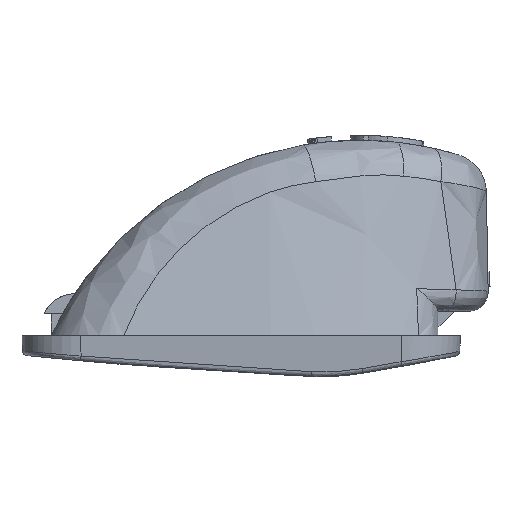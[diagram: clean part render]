
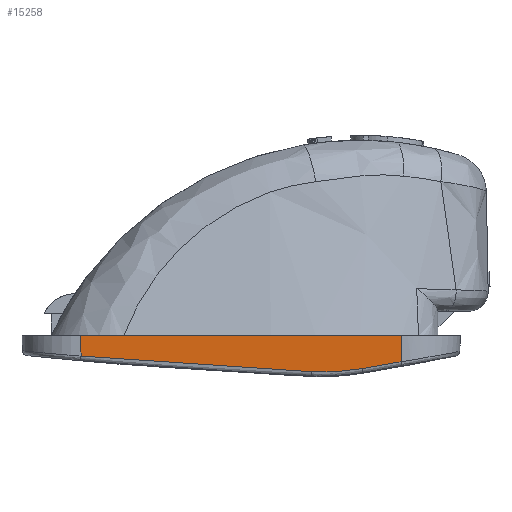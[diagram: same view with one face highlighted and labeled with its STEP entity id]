
A CAD part, left-side view. The second image highlights one B-rep face of the part: STEP entity #15258.
In plain terms, the highlighted planar face has unit normal (-0.999, 0, -0.035).
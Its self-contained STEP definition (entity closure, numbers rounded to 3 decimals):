
#20 = CARTESIAN_POINT ( 'NONE',  ( -51.889, -36.248, -3.165 ) ) ;
#80 = CARTESIAN_POINT ( 'NONE',  ( -51.898, -37.58, -2.931 ) ) ;
#403 = DIRECTION ( 'NONE',  ( -0.035, 0.035, 0.999 ) ) ;
#712 = FACE_OUTER_BOUND ( 'NONE', #14331, .T. ) ;
#1403 = CARTESIAN_POINT ( 'NONE',  ( -51.87, -29.758, -3.71 ) ) ;
#2119 = LINE ( 'NONE', #8752, #16914 ) ;
#2172 = AXIS2_PLACEMENT_3D ( 'NONE', #13459, #17833, #9355 ) ;
#2696 = CARTESIAN_POINT ( 'NONE',  ( -51.882, -34.914, -3.391 ) ) ;
#3017 = EDGE_CURVE ( 'NONE', #15774, #8891, #12576, .T. ) ;
#3087 = CARTESIAN_POINT ( 'NONE',  ( -51.87, -29.758, -3.71 ) ) ;
#3192 = CARTESIAN_POINT ( 'NONE',  ( -51.872, -33.207, -3.679 ) ) ;
#4271 = CARTESIAN_POINT ( 'NONE',  ( -51.883, -21.851, -3.364 ) ) ;
#5219 = ORIENTED_EDGE ( 'NONE', *, *, #11560, .T. ) ;
#5341 = LINE ( 'NONE', #9110, #12923 ) ;
#5730 = CARTESIAN_POINT ( 'NONE',  ( -51.901, -13.952, -2.829 ) ) ;
#6668 = CARTESIAN_POINT ( 'NONE',  ( -51.906, -38.91, -2.687 ) ) ;
#6674 = VERTEX_POINT ( 'NONE', #3087 ) ;
#7932 = CARTESIAN_POINT ( 'NONE',  ( -52., -39.004, 0. ) ) ;
#8023 = B_SPLINE_CURVE_WITH_KNOTS ( 'NONE', 3,
 ( #12826, #4271, #5730, #15665 ),
 .UNSPECIFIED., .F., .F.,
 ( 4, 4 ),
 ( 0., 1. ),
 .UNSPECIFIED. ) ;
#8332 = EDGE_CURVE ( 'NONE', #6674, #10750, #8720, .T. ) ;
#8720 = B_SPLINE_CURVE_WITH_KNOTS ( 'NONE', 3,
 ( #1403, #11799, #3192, #13211 ),
 .UNSPECIFIED., .F., .F.,
 ( 4, 4 ),
 ( 0., 1. ),
 .UNSPECIFIED. ) ;
#8752 = CARTESIAN_POINT ( 'NONE',  ( -51.906, -38.91, -2.687 ) ) ;
#8824 = VECTOR ( 'NONE', #13841, 1000. ) ;
#8891 = VERTEX_POINT ( 'NONE', #12498 ) ;
#9110 = CARTESIAN_POINT ( 'NONE',  ( -51.953, -6.044, -1.359 ) ) ;
#9355 = DIRECTION ( 'NONE',  ( -0.035, 0., 0.999 ) ) ;
#9642 = VERTEX_POINT ( 'NONE', #18511 ) ;
#10237 = CARTESIAN_POINT ( 'NONE',  ( -51.906, -38.91, -2.687 ) ) ;
#10675 = EDGE_CURVE ( 'NONE', #6674, #9642, #8023, .T. ) ;
#10750 = VERTEX_POINT ( 'NONE', #11785 ) ;
#11087 = EDGE_CURVE ( 'NONE', #10750, #13022, #12451, .T. ) ;
#11184 = EDGE_CURVE ( 'NONE', #9642, #8891, #5341, .T. ) ;
#11560 = EDGE_CURVE ( 'NONE', #13022, #15774, #2119, .T. ) ;
#11592 = ORIENTED_EDGE ( 'NONE', *, *, #3017, .T. ) ;
#11616 = DIRECTION ( 'NONE',  ( -0.035, -0.035, 0.999 ) ) ;
#11785 = CARTESIAN_POINT ( 'NONE',  ( -51.882, -34.914, -3.391 ) ) ;
#11799 = CARTESIAN_POINT ( 'NONE',  ( -51.868, -31.488, -3.786 ) ) ;
#12438 = CARTESIAN_POINT ( 'NONE',  ( -52., -45., 0. ) ) ;
#12451 = B_SPLINE_CURVE_WITH_KNOTS ( 'NONE', 3,
 ( #2696, #20, #80, #10237 ),
 .UNSPECIFIED., .F., .F.,
 ( 4, 4 ),
 ( 0., 1. ),
 .UNSPECIFIED. ) ;
#12498 = CARTESIAN_POINT ( 'NONE',  ( -52., -5.996, 0. ) ) ;
#12535 = ORIENTED_EDGE ( 'NONE', *, *, #10675, .F. ) ;
#12576 = LINE ( 'NONE', #12438, #8824 ) ;
#12826 = CARTESIAN_POINT ( 'NONE',  ( -51.87, -29.758, -3.71 ) ) ;
#12923 = VECTOR ( 'NONE', #403, 1000. ) ;
#13022 = VERTEX_POINT ( 'NONE', #6668 ) ;
#13211 = CARTESIAN_POINT ( 'NONE',  ( -51.882, -34.914, -3.391 ) ) ;
#13459 = CARTESIAN_POINT ( 'NONE',  ( -52., -45., 0. ) ) ;
#13733 = ORIENTED_EDGE ( 'NONE', *, *, #8332, .T. ) ;
#13841 = DIRECTION ( 'NONE',  ( 0., 1., 0. ) ) ;
#14331 = EDGE_LOOP ( 'NONE', ( #14579, #12535, #13733, #18003, #5219, #11592 ) ) ;
#14579 = ORIENTED_EDGE ( 'NONE', *, *, #11184, .F. ) ;
#15258 = ADVANCED_FACE ( 'NONE', ( #712 ), #16376, .T. ) ;
#15665 = CARTESIAN_POINT ( 'NONE',  ( -51.926, -6.07, -2.108 ) ) ;
#15774 = VERTEX_POINT ( 'NONE', #7932 ) ;
#16376 = PLANE ( 'NONE',  #2172 ) ;
#16914 = VECTOR ( 'NONE', #11616, 1000. ) ;
#17833 = DIRECTION ( 'NONE',  ( -0.999, 0., -0.035 ) ) ;
#18003 = ORIENTED_EDGE ( 'NONE', *, *, #11087, .T. ) ;
#18511 = CARTESIAN_POINT ( 'NONE',  ( -51.926, -6.07, -2.108 ) ) ;
